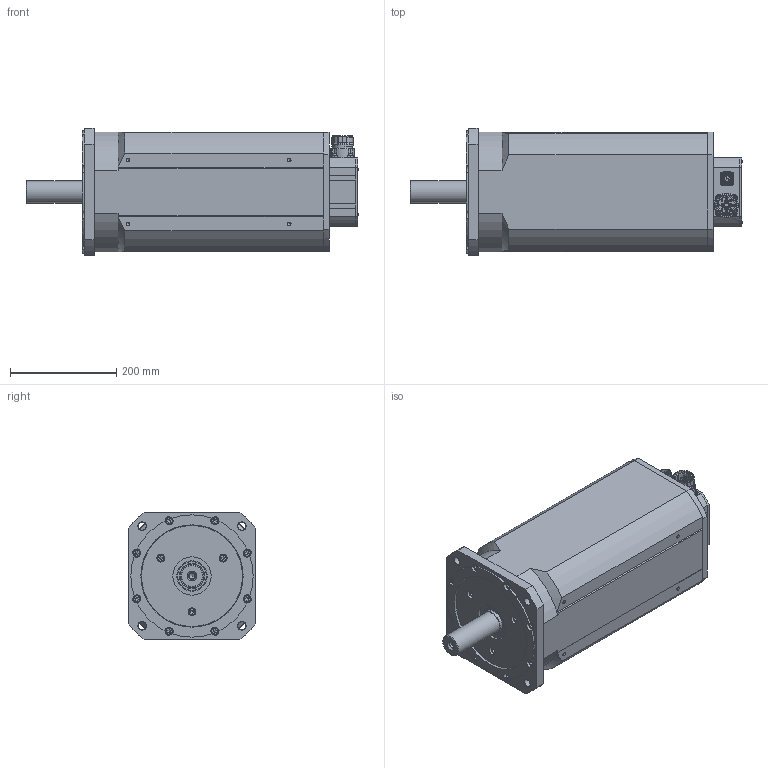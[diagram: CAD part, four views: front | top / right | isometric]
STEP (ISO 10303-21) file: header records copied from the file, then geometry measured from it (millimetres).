
FILE_DESCRIPTION(/* description */ (''),/* implementation_level */ '2;1');
FILE_NAME(/* name */ 'C:\PDF_output\T8000 00 B Z_0930_8P_12P.stp',/* time_stamp */ '2024-04-19T12:00:53+02:00',/* author */ ('oslejsek'),/* organization */ (''),/* preprocessor_version */ 'ST-DEVELOPER v18.1',/* originating_system */ 'Autodesk Inventor 2021',/* authorisation */ '');
FILE_SCHEMA (('AUTOMOTIVE_DESIGN { 1 0 10303 214 3 1 1 }'));
Products named in the file (5): T8000 00 B Z_0930_8P_12P; T8000 00 B Z_rear_0930; 127344; 115772; T8000 00 B Z_front_42_110
Assembly tree (4 placements, depth 2):
  T8000 00 B Z_0930_8P_12P
    T8000 00 B Z_rear_0930
    127344
    115772
    T8000 00 B Z_front_42_110
Bounding box: 624.29 x 240 x 240 mm (x, y, z)
Volume: 22218565.5 mm3; surface area: 748527.7 mm2
Topology: 5 solids, 62 shells, 2680 faces, 6867 edges, 4446 vertices
Faces by surface type: plane 964, cylinder 817, cone 306, bspline 297, torus 257, sphere 39
Full cylindrical faces by diameter (mm): 1 x12, 1.18 x12, 2 x4, 2.013 x4, 2.208 x4, 2.4 x4, 2.459 x6, 2.5 x4, 2.7 x4, 3 x3, 3.2 x3, 3.242 x11, 3.545 x4, 3.6 x5, 3.95 x4, 4 x15, 4.134 x2, 4.3 x8, 4.917 x9, 5 x4, 5.7 x3, 6 x9, 6.4 x1, 6.5 x8, 6.647 x16, 7 x4, 7.5 x4, 8 x15, 8.4 x11, 8.5 x4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
Entity records: 97725 total; most frequent: CARTESIAN_POINT 30439, ORIENTED_EDGE 13550, DIRECTION 13490, EDGE_CURVE 6775, AXIS2_PLACEMENT_3D 5452, VERTEX_POINT 4464, EDGE_LOOP 3069, CIRCLE 2823
